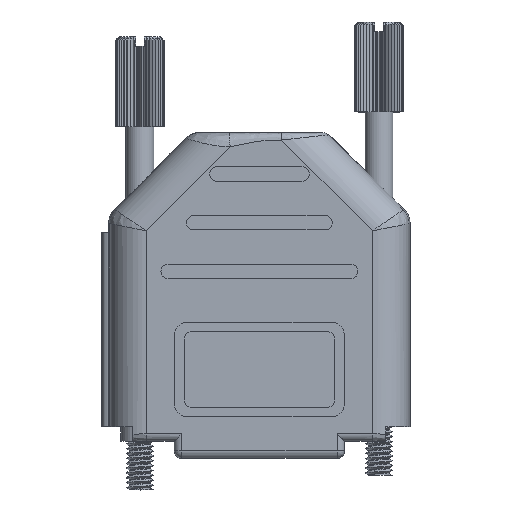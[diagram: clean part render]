
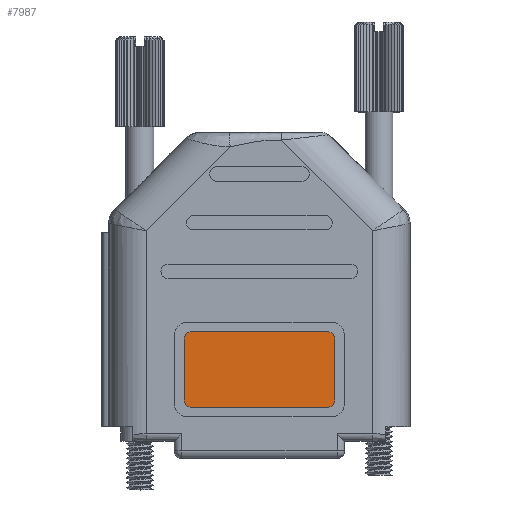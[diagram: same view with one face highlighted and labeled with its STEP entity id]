
A CAD part, top view. The second image highlights one B-rep face of the part: STEP entity #7987.
In plain terms, the highlighted planar face has unit normal (0, 0, 1) as drawn and (0, 0, -1) by its records, which use the part's own axes.
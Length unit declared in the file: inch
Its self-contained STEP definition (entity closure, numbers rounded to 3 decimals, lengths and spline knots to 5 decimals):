
#7721=CARTESIAN_POINT('',(0.2715,-0.0315,-0.14775));
#7722=VERTEX_POINT('',#7721);
#7723=CARTESIAN_POINT('',(0.2415,-0.0615,-0.14775));
#7724=VERTEX_POINT('',#7723);
#7725=CARTESIAN_POINT('',(0.2715,-0.0615,-0.14775));
#7726=DIRECTION('',(0.0,0.0,1.0));
#7727=DIRECTION('',(-0.707,0.707,0.0));
#7728=AXIS2_PLACEMENT_3D('',#7725,#7726,#7727);
#7729=CIRCLE('',#7728,0.03);
#7730=EDGE_CURVE('',#7722,#7724,#7729,.T.);
#7772=CARTESIAN_POINT('',(0.8315,-0.0315,-0.14775));
#7773=VERTEX_POINT('',#7772);
#7780=CARTESIAN_POINT('',(0.8315,-0.0315,-0.14775));
#7781=DIRECTION('',(-1.0,0.0,0.0));
#7782=VECTOR('',#7781,0.56);
#7783=LINE('',#7780,#7782);
#7784=EDGE_CURVE('',#7773,#7722,#7783,.T.);
#7794=CARTESIAN_POINT('',(0.2415,-0.3115,-0.14775));
#7795=VERTEX_POINT('',#7794);
#7796=CARTESIAN_POINT('',(0.2715,-0.3415,-0.14775));
#7797=VERTEX_POINT('',#7796);
#7798=CARTESIAN_POINT('',(0.2715,-0.3115,-0.14775));
#7799=DIRECTION('',(0.0,0.0,1.0));
#7800=DIRECTION('',(-0.707,-0.707,0.0));
#7801=AXIS2_PLACEMENT_3D('',#7798,#7799,#7800);
#7802=CIRCLE('',#7801,0.03);
#7803=EDGE_CURVE('',#7795,#7797,#7802,.T.);
#7837=CARTESIAN_POINT('',(0.2415,-0.0615,-0.14775));
#7838=DIRECTION('',(0.0,-1.0,0.0));
#7839=VECTOR('',#7838,0.25);
#7840=LINE('',#7837,#7839);
#7841=EDGE_CURVE('',#7724,#7795,#7840,.T.);
#7858=CARTESIAN_POINT('',(0.8315,-0.3415,-0.14775));
#7859=VERTEX_POINT('',#7858);
#7860=CARTESIAN_POINT('',(0.8615,-0.3115,-0.14775));
#7861=VERTEX_POINT('',#7860);
#7862=CARTESIAN_POINT('',(0.8315,-0.3115,-0.14775));
#7863=DIRECTION('',(0.0,0.0,1.0));
#7864=DIRECTION('',(0.707,-0.707,0.0));
#7865=AXIS2_PLACEMENT_3D('',#7862,#7863,#7864);
#7866=CIRCLE('',#7865,0.03);
#7867=EDGE_CURVE('',#7859,#7861,#7866,.T.);
#7901=CARTESIAN_POINT('',(0.2715,-0.3415,-0.14775));
#7902=DIRECTION('',(1.0,0.0,0.0));
#7903=VECTOR('',#7902,0.56);
#7904=LINE('',#7901,#7903);
#7905=EDGE_CURVE('',#7797,#7859,#7904,.T.);
#7922=CARTESIAN_POINT('',(0.8615,-0.0615,-0.14775));
#7923=VERTEX_POINT('',#7922);
#7924=CARTESIAN_POINT('',(0.8315,-0.0615,-0.14775));
#7925=DIRECTION('',(0.0,0.0,1.0));
#7926=DIRECTION('',(0.707,0.707,0.0));
#7927=AXIS2_PLACEMENT_3D('',#7924,#7925,#7926);
#7928=CIRCLE('',#7927,0.03);
#7929=EDGE_CURVE('',#7923,#7773,#7928,.T.);
#7956=CARTESIAN_POINT('',(0.8615,-0.3115,-0.14775));
#7957=DIRECTION('',(0.0,1.0,0.0));
#7958=VECTOR('',#7957,0.25);
#7959=LINE('',#7956,#7958);
#7960=EDGE_CURVE('',#7861,#7923,#7959,.T.);
#7972=CARTESIAN_POINT('',(0.5515,-0.1865,-0.14775));
#7973=DIRECTION('',(0.0,0.0,1.0));
#7974=DIRECTION('',(1.0,0.0,0.0));
#7975=AXIS2_PLACEMENT_3D('',#7972,#7973,#7974);
#7976=PLANE('',#7975);
#7977=ORIENTED_EDGE('',*,*,#7730,.F.);
#7978=ORIENTED_EDGE('',*,*,#7784,.F.);
#7979=ORIENTED_EDGE('',*,*,#7929,.F.);
#7980=ORIENTED_EDGE('',*,*,#7960,.F.);
#7981=ORIENTED_EDGE('',*,*,#7867,.F.);
#7982=ORIENTED_EDGE('',*,*,#7905,.F.);
#7983=ORIENTED_EDGE('',*,*,#7803,.F.);
#7984=ORIENTED_EDGE('',*,*,#7841,.F.);
#7985=EDGE_LOOP('',(#7977,#7978,#7979,#7980,#7981,#7982,#7983,#7984));
#7986=FACE_OUTER_BOUND('',#7985,.T.);
#7987=ADVANCED_FACE('',(#7986),#7976,.F.);
